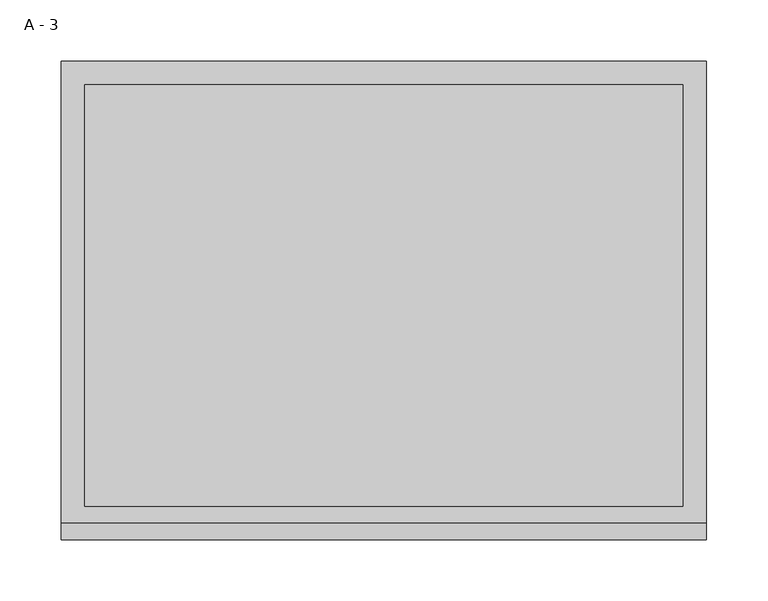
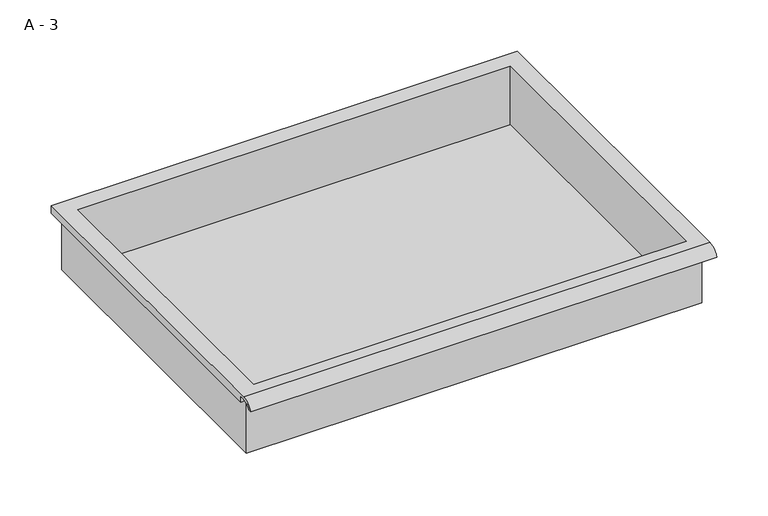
"""IFC4 building model written with IfcOpenShell, lengths in millimetres: furniture geometry, HermanMiller_CoStruc_CO207_Drawer : A - 3."""

from ifc_helpers import new_model, si_unit, frame, origin, place, context, project, spatial, polyline, circle_curve, source, transform, mapped, element, save
from ifc_brep_helpers import plane_surface, cylinder_surface, revolved_surface, advanced_brep


def a_3_21ecb1ea(model_context):
    return source(origin(), model_context, "Body", "AdvancedBrep", [
        advanced_brep(
        [(-257.1076517, -176.2125, 723.9), (257.2423483, -176.2125, 723.9), (257.2423483, -176.2125, 787.4), (263.5923483, -176.2125, 787.4), (263.5923483, -176.2125, 793.7071341), (-263.4576517, -176.2125, 793.7071341), (-263.4576517, -176.2125, 787.4), (-257.1076517, -176.2125, 787.4), (257.2423483, 185.7375, 723.9), (-257.1076517, 185.7375, 723.9), (-257.1076517, 185.7375, 787.4), (257.2423483, 185.7375, 787.4), (263.5923483, -181.6070544, 796.925), (263.5923483, 195.2625, 796.925), (-263.4576517, 195.2625, 796.925), (-263.4576517, -181.6070544, 796.925), (244.5423483, -168.275, 796.925), (-244.4076517, -168.275, 796.925), (-244.4076517, 176.2125, 796.925), (244.5423483, 176.2125, 796.925), (263.5923483, -195.2625, 787.4), (263.5923483, -191.8280601, 787.4), (263.5923483, -180.4714815, 793.7071341), (263.5923483, 195.2625, 787.4), (-263.4576517, 195.2625, 787.4), (-263.4576517, -180.4714815, 793.7071341), (-263.4576517, -191.8280601, 787.4), (-263.4576517, -195.2625, 787.4), (-244.4076517, -168.275, 726.9261719), (244.5423483, -168.275, 726.9261719), (244.5423483, 176.2125, 726.9261719), (-244.4076517, 176.2125, 726.9261719)],
        [
            (0, 1),
            (1, 2),
            (2, 3),
            (3, 4),
            (4, 5),
            (5, 6),
            (6, 7),
            (7, 0),
            (8, 9),
            (9, 10),
            (10, 11),
            (11, 8),
            (0, 9),
            (8, 1),
            (11, 2),
            (12, 13),
            (13, 14),
            (14, 15),
            (15, 12),
            (16, 17),
            (17, 18),
            (18, 19),
            (19, 16),
            (7, 10),
            (12, 20, circle_curve(frame((263.5923483, -181.6070544, 782.3739859), z_axis=(1.0, 0.0, 0.0), x_axis=(0.0, 1.0, 0.0)), 14.5510141)),
            (20, 21),
            (21, 22, circle_curve(frame((263.5923483, -181.6070544, 782.3739859), z_axis=(-1.0, 0.0, 0.0), x_axis=(0.0, 1.0, 0.0)), 11.3898979)),
            (22, 4),
            (3, 23),
            (23, 13),
            (14, 24),
            (24, 6),
            (5, 25),
            (25, 26, circle_curve(frame((-263.4576517, -181.6070544, 782.3739859), z_axis=(1.0, 0.0, 0.0), x_axis=(0.0, 1.0, 0.0)), 11.3898979)),
            (26, 27),
            (27, 15, circle_curve(frame((-263.4576517, -181.6070544, 782.3739859), z_axis=(-1.0, 0.0, 0.0), x_axis=(0.0, 1.0, 0.0)), 14.5510141)),
            (27, 20),
            (26, 21),
            (25, 22),
            (24, 23),
            (28, 29),
            (29, 30),
            (30, 31),
            (31, 28),
            (28, 17),
            (16, 29),
            (19, 30),
            (18, 31),
        ],
        [
            plane_surface(frame((257.2423483, -176.2125, 723.9), z_axis=(0.0, -1.0, 0.0), x_axis=(1.0, 0.0, 0.0))),
            plane_surface(frame((257.2423483, 185.7375, 723.9), z_axis=(0.0, 1.0, 0.0), x_axis=(-1.0, 0.0, 0.0))),
            plane_surface(frame((-257.1076517, -176.2125, 723.9), z_axis=(0.0, 0.0, -1.0), x_axis=(0.0, 1.0, 0.0))),
            plane_surface(frame((257.2423483, -176.2125, 723.9), z_axis=(1.0, 0.0, 0.0), x_axis=(0.0, 1.0, 0.0))),
            plane_surface(frame((257.2423483, -176.2125, 796.925), z_axis=(0.0, 0.0, 1.0), x_axis=(0.0, 1.0, 0.0))),
            plane_surface(frame((-257.1076517, -176.2125, 796.925), z_axis=(-1.0, 0.0, 0.0), x_axis=(0.0, 1.0, 0.0))),
            plane_surface(frame((263.5923483, 195.2625, 796.925), z_axis=(1.0, 0.0, 0.0), x_axis=(0.0, -1.0, 0.0))),
            plane_surface(frame((-263.4576517, 195.2625, 796.925), z_axis=(-1.0, 0.0, 0.0), x_axis=(0.0, 1.0, 0.0))),
            cylinder_surface(frame((-263.4576517, -181.6070544, 782.3739859), z_axis=(1.0, 0.0, 0.0), x_axis=(0.0, 1.0, 0.0)), 14.5510141),
            plane_surface(frame((263.5923483, -195.2625, 787.4), z_axis=(0.0, -7.291233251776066e-12, -1.0), x_axis=(-1.0, 0.0, 0.0))),
            revolved_surface(polyline([(-263.4576517, -170.21715650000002, 782.3739859), (263.59234829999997, -170.21715650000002, 782.3739859)]), (-263.4576517, -181.6070544, 782.3739859), (-1.0, 0.0, 0.0)),
            plane_surface(frame((263.5923483, -180.4714815, 793.7071341), z_axis=(0.0, -1.8115665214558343e-11, -1.0), x_axis=(-1.0, 0.0, 0.0))),
            plane_surface(frame((263.5923483, -176.2125, 787.4), z_axis=(0.0, 0.0, -1.0), x_axis=(-1.0, 0.0, 0.0))),
            plane_surface(frame((263.5923483, 195.2625, 787.4), z_axis=(0.0, 1.0, 0.0), x_axis=(-1.0, 0.0, 0.0))),
            plane_surface(frame((244.5423483, -168.275, 726.9261719), z_axis=(0.0, 0.0, 1.0), x_axis=(-1.0, 0.0, 0.0))),
            plane_surface(frame((-244.4076517, -168.275, 796.925), z_axis=(0.0, 1.0, 0.0), x_axis=(0.0, 0.0, -1.0))),
            plane_surface(frame((244.5423483, -168.275, 796.925), z_axis=(-1.0, 0.0, 0.0), x_axis=(0.0, 0.0, -1.0))),
            plane_surface(frame((244.5423483, 176.2125, 796.925), z_axis=(0.0, -1.0, 0.0), x_axis=(0.0, 0.0, -1.0))),
            plane_surface(frame((-244.4076517, 176.2125, 796.925), z_axis=(1.0, 0.0, 0.0), x_axis=(0.0, 0.0, -1.0))),
        ],
        [
            (0, [[1, 2, 3, 4, 5, 6, 7, 8]]),
            (1, [[9, 10, 11, 12]]),
            (2, [[-1, 13, -9, 14]]),
            (3, [[-14, -12, 15, -2]]),
            (4, [[16, 17, 18, 19], [20, 21, 22, 23]]),
            (5, [[-13, -8, 24, -10]]),
            (6, [[-16, 25, 26, 27, 28, -4, 29, 30]]),
            (7, [[31, 32, -6, 33, 34, 35, 36, -18]]),
            (8, [[-25, -19, -36, 37]]),
            (9, [[-26, -37, -35, 38]]),
            (10, [[-27, -38, -34, 39]]),
            (11, [[-28, -39, -33, -5]]),
            (12, [[-29, -3, -15, -11, -24, -7, -32, 40]]),
            (13, [[-30, -40, -31, -17]]),
            (14, [[41, 42, 43, 44]]),
            (15, [[-41, 45, -20, 46]]),
            (16, [[-42, -46, -23, 47]]),
            (17, [[-43, -47, -22, 48]]),
            (18, [[-44, -48, -21, -45]]),
        ],
    ),
    ])


if __name__ == "__main__":
    model = new_model("IFC4")
    model_context = context("Model", 3, world=origin())
    ifc_project = project(units=[si_unit("LENGTHUNIT", "METRE", prefix="MILLI")], contexts=[model_context])
    site = spatial("IfcSite", under=ifc_project)
    building = spatial("IfcBuilding", under=site)
    placement = place(None, origin())
    a_3_shape = a_3_21ecb1ea(model_context)
    element("IfcFurniture", 1, ObjectType="HermanMiller_CoStruc_CO207_Drawer : A - 3", at=placement, inside=building, context=model_context, shape_type="MappedRepresentation", body=[
        mapped(a_3_shape, transform((0.0, 0.0, 0.0), x_axis=(1.0, 0.0, 0.0), y_axis=(0.0, 1.0, 0.0), z_axis=(0.0, 0.0, 1.0))),
    ])
    save(model, "model.ifc")
